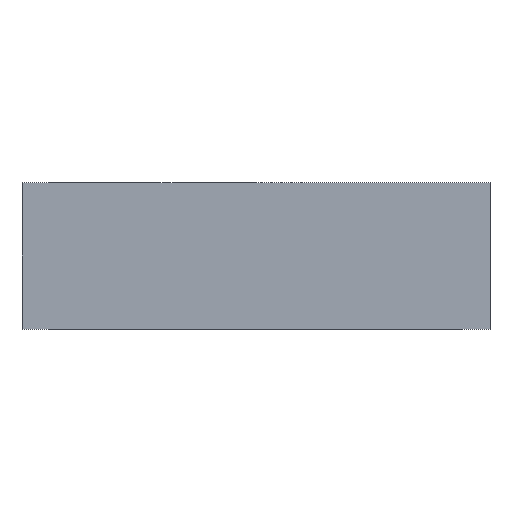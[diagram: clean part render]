
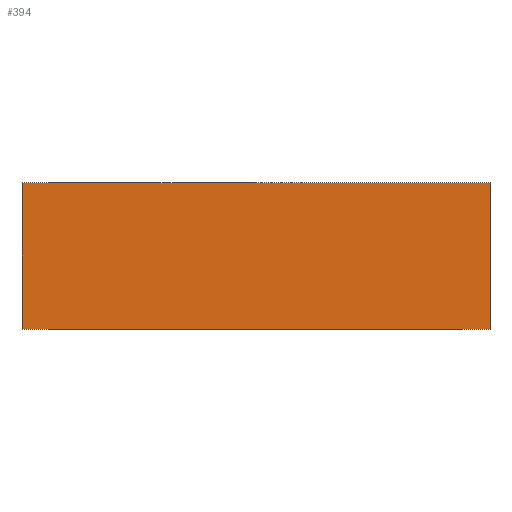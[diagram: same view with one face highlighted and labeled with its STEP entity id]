
A CAD part, front view. The second image highlights one B-rep face of the part: STEP entity #394.
In plain terms, the highlighted planar face has unit normal (0, -1, 0).
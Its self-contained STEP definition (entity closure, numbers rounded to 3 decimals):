
#3 = EDGE_CURVE ( 'NONE', #698, #686, #271, .T. ) ;
#19 = EDGE_CURVE ( 'NONE', #698, #610, #243, .T. ) ;
#66 = AXIS2_PLACEMENT_3D ( 'NONE', #564, #556, #555 ) ;
#96 = ORIENTED_EDGE ( 'NONE', *, *, #385, .T. ) ;
#103 = ORIENTED_EDGE ( 'NONE', *, *, #19, .T. ) ;
#104 = ORIENTED_EDGE ( 'NONE', *, *, #3, .F. ) ;
#105 = ORIENTED_EDGE ( 'NONE', *, *, #388, .F. ) ;
#149 = FACE_OUTER_BOUND ( 'NONE', #277, .T. ) ;
#152 = VECTOR ( 'NONE', #575, 1000. ) ;
#153 = LINE ( 'NONE', #576, #152 ) ;
#156 = VECTOR ( 'NONE', #581, 1000. ) ;
#157 = LINE ( 'NONE', #582, #156 ) ;
#242 = VECTOR ( 'NONE', #707, 1000. ) ;
#243 = LINE ( 'NONE', #441, #242 ) ;
#265 = VECTOR ( 'NONE', #568, 1000. ) ;
#271 = LINE ( 'NONE', #590, #265 ) ;
#277 = EDGE_LOOP ( 'NONE', ( #96, #105, #104, #103 ) ) ;
#385 = EDGE_CURVE ( 'NONE', #610, #617, #157, .T. ) ;
#388 = EDGE_CURVE ( 'NONE', #686, #617, #153, .T. ) ;
#394 = ADVANCED_FACE ( 'NONE', ( #149 ), #567, .F. ) ;
#441 = CARTESIAN_POINT ( 'NONE',  ( -104., 0., 65. ) ) ;
#446 = CARTESIAN_POINT ( 'NONE',  ( -104., 0., 65. ) ) ;
#450 = CARTESIAN_POINT ( 'NONE',  ( 104., 0., 65. ) ) ;
#473 = CARTESIAN_POINT ( 'NONE',  ( 104., 0., 0. ) ) ;
#477 = CARTESIAN_POINT ( 'NONE',  ( -104., 0., 0. ) ) ;
#555 = DIRECTION ( 'NONE',  ( -1., 0., 0. ) ) ;
#556 = DIRECTION ( 'NONE',  ( 0., 1., 0. ) ) ;
#564 = CARTESIAN_POINT ( 'NONE',  ( -104., 0., 65. ) ) ;
#567 = PLANE ( 'NONE',  #66 ) ;
#568 = DIRECTION ( 'NONE',  ( 1., 0., 0. ) ) ;
#575 = DIRECTION ( 'NONE',  ( 0., 0., -1. ) ) ;
#576 = CARTESIAN_POINT ( 'NONE',  ( 104., 0., 65. ) ) ;
#581 = DIRECTION ( 'NONE',  ( 1., 0., 0. ) ) ;
#582 = CARTESIAN_POINT ( 'NONE',  ( -104., 0., 0. ) ) ;
#590 = CARTESIAN_POINT ( 'NONE',  ( -104., 0., 65. ) ) ;
#610 = VERTEX_POINT ( 'NONE', #477 ) ;
#617 = VERTEX_POINT ( 'NONE', #473 ) ;
#686 = VERTEX_POINT ( 'NONE', #450 ) ;
#698 = VERTEX_POINT ( 'NONE', #446 ) ;
#707 = DIRECTION ( 'NONE',  ( 0., 0., -1. ) ) ;
